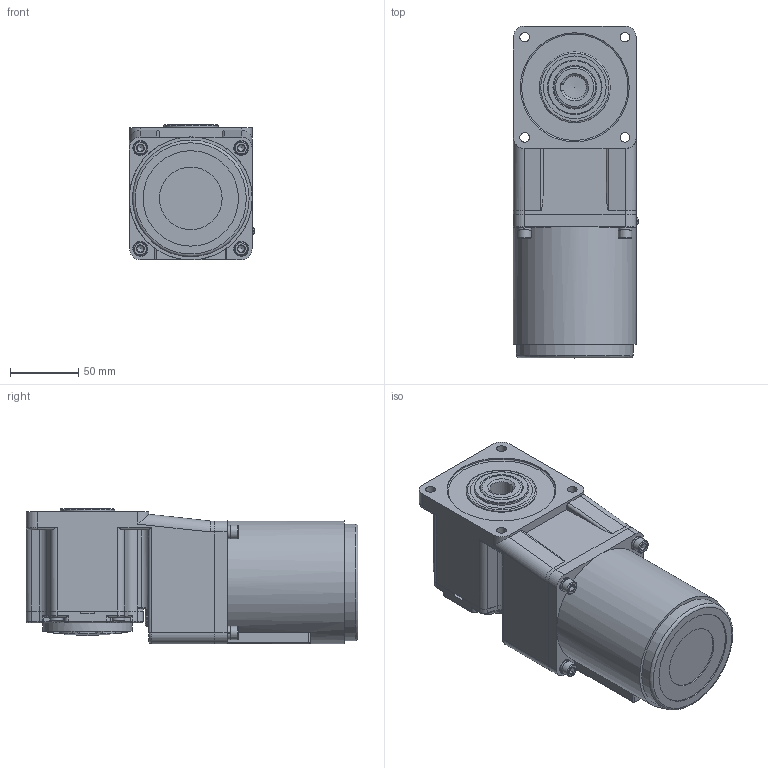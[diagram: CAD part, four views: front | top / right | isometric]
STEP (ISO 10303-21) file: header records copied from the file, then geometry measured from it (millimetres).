
FILE_DESCRIPTION(/* description */ (''),/* implementation_level */ '2;1');
FILE_NAME(/* name */ '90+中空直角-普通-40W.stp',/* time_stamp */ '2022-09-27T10:37:31+08:00',/* author */ (''),/* organization */ (''),/* preprocessor_version */ 'ST-DEVELOPER v16.7',/* originating_system */ 'SIEMENS PLM Software NX 1899',/* authorisation */ '');
FILE_SCHEMA (('AP203_CONFIGURATION_CONTROLLED_3D_DESIGN_OF_MECHANICAL_PARTS_AND_ASSEMBLIES_MIM_LF { 1 0 10303 403 2 1 2}'));
Length unit declared in the file: millimetre
Products named in the file (1): yf1815905F60ugnl
Bounding box: 92 x 243.5 x 99.6 mm (x, y, z)
Volume: 1652693.2 mm3; surface area: 149603.4 mm2
Topology: 15 solids, 15 shells, 630 faces, 1459 edges, 880 vertices
Faces by surface type: plane 304, cylinder 204, torus 60, cone 48, sphere 10, bspline 4
Full cylindrical faces by diameter (mm): 3.3 x2, 4.5 x2, 5 x4, 5.5 x4, 5.795 x4, 6.4 x4, 7 x8, 9.5 x4, 10 x4, 11 x4, 30 x2, 40 x1, 46 x1, 47 x1, 47.5 x1, 52 x1, 60 x1, 60.5 x1, 66 x1, 67 x1, 70 x1, 76 x1, 80 x1, 85.6 x1, 86 x2, 90.2 x1
Entity records: 18701 total; most frequent: CARTESIAN_POINT 3705, DIRECTION 2971, ORIENTED_EDGE 2584, EDGE_CURVE 1292, AXIS2_PLACEMENT_3D 1188, VERTEX_POINT 835, EDGE_LOOP 793, ADVANCED_FACE 630
